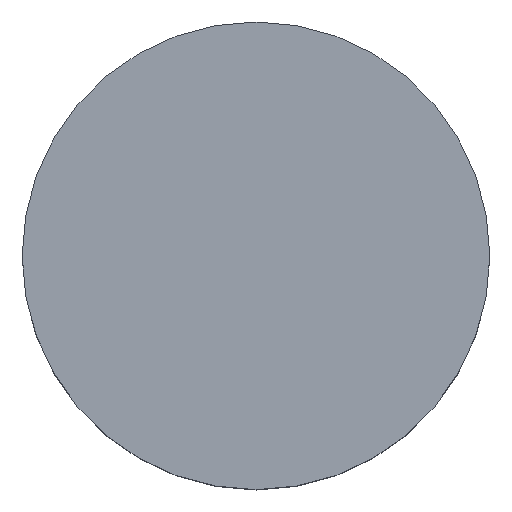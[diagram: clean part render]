
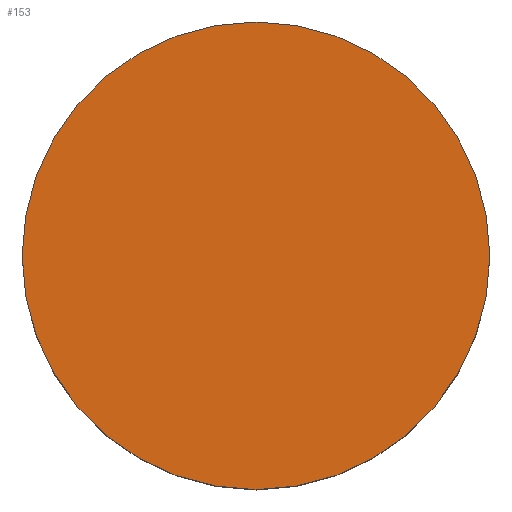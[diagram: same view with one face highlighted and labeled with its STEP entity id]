
A CAD part, top view. The second image highlights one B-rep face of the part: STEP entity #153.
In plain terms, the highlighted planar face has unit normal (0, 0, 1).
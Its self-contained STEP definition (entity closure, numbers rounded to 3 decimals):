
#153=ADVANCED_FACE('',(#185),#178,.T.);
#178=PLANE('',#446);
#185=FACE_OUTER_BOUND('',#205,.T.);
#205=EDGE_LOOP('',(#235,#236));
#235=ORIENTED_EDGE('',*,*,#361,.F.);
#236=ORIENTED_EDGE('',*,*,#362,.F.);
#331=VERTEX_POINT('',#639);
#332=VERTEX_POINT('',#640);
#361=EDGE_CURVE('',#331,#332,#409,.T.);
#362=EDGE_CURVE('',#332,#331,#410,.T.);
#409=CIRCLE('',#444,5.5);
#410=CIRCLE('',#445,5.5);
#444=AXIS2_PLACEMENT_3D('',#638,#505,#506);
#445=AXIS2_PLACEMENT_3D('',#641,#507,#508);
#446=AXIS2_PLACEMENT_3D('',#642,#509,#510);
#505=DIRECTION('',(0.,0.,-1.));
#506=DIRECTION('',(0.,1.,0.));
#507=DIRECTION('',(0.,0.,-1.));
#508=DIRECTION('',(0.,-1.,0.));
#509=DIRECTION('',(0.,0.,1.));
#510=DIRECTION('',(0.,-1.,0.));
#638=CARTESIAN_POINT('',(0.,0.,5.));
#639=CARTESIAN_POINT('',(5.5,0.,5.));
#640=CARTESIAN_POINT('',(-5.5,0.,5.));
#641=CARTESIAN_POINT('',(0.,0.,5.));
#642=CARTESIAN_POINT('',(0.,0.,5.));
